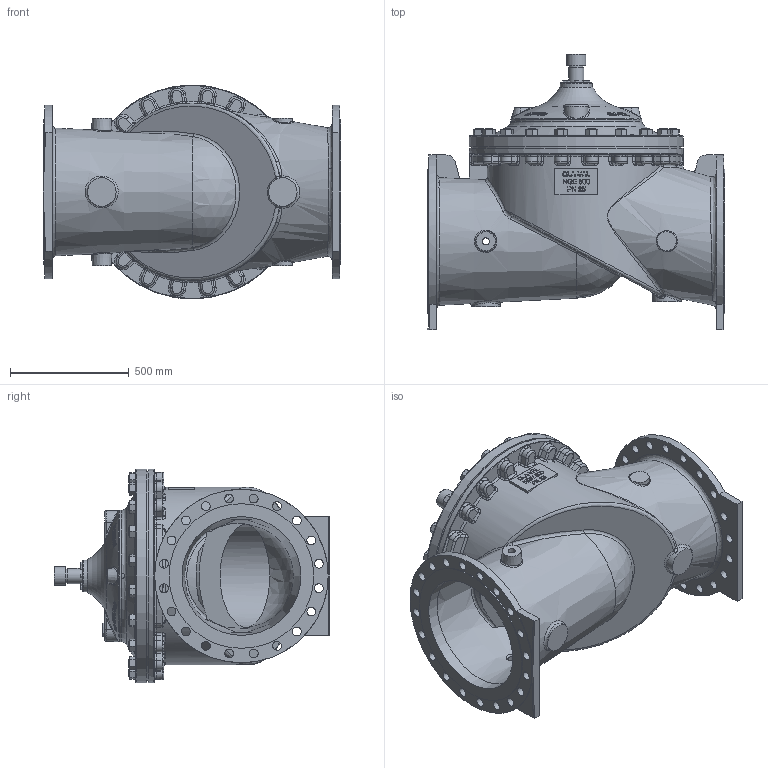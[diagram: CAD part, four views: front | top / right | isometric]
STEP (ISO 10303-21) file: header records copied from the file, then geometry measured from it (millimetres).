
FILE_DESCRIPTION(/* description */ (''),/* implementation_level */ '2;1');
FILE_NAME(/* name */ 'G:\Doc_Liberes\SymbolesCAD\Modeles_3D\FichierSTP\VanneDeBase\NGE500-25RF.stp',/* time_stamp */ '2023-08-17T10:31:52+02:00',/* author */ ('theo'),/* organization */ (''),/* preprocessor_version */ 'ST-DEVELOPER v18.1',/* originating_system */ 'Autodesk Inventor 2022',/* authorisation */ '');
FILE_SCHEMA (('AUTOMOTIVE_DESIGN { 1 0 10303 214 3 1 1 }'));
Products named in the file (1): nge500-25RF_Simplifier_1
Bounding box: 1252.5 x 1160.95 x 900 mm (x, y, z)
Volume: 108973037.4 mm3; surface area: 9246403.5 mm2
Topology: 1 solids, 1 shells, 2826 faces, 7366 edges, 4682 vertices
Faces by surface type: plane 1143, cone 943, cylinder 307, bspline 241, torus 125, sphere 67
Full cylindrical faces by diameter (mm): 14.287 x8, 20.637 x8, 22.05 x4, 30.29 x2, 31.75 x40, 35 x20, 37 x40, 47.8 x1, 60.3 x1, 63.5 x21, 66.68 x1, 80 x1, 120 x2, 134.9 x1, 440 x1, 474 x1, 495 x1, 500 x2, 520.5 x1, 521 x1, 552 x1, 609 x2, 730 x2, 879.25 x1, 881.9 x1, 899 x1, 900 x1
Entity records: 101971 total; most frequent: CARTESIAN_POINT 35521, ORIENTED_EDGE 14728, DIRECTION 13503, EDGE_CURVE 7364, AXIS2_PLACEMENT_3D 6011, VERTEX_POINT 4683, CIRCLE 3390, EDGE_LOOP 3110
